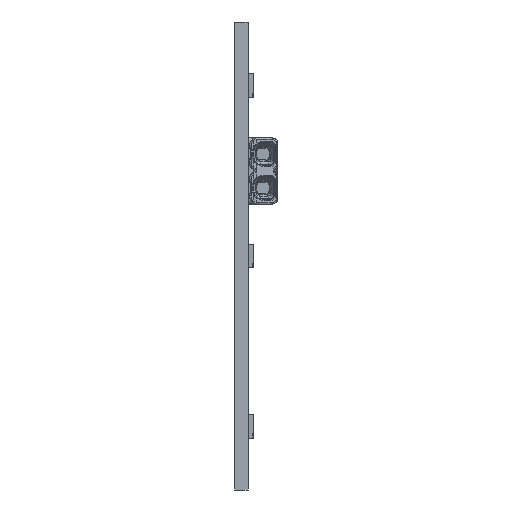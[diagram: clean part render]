
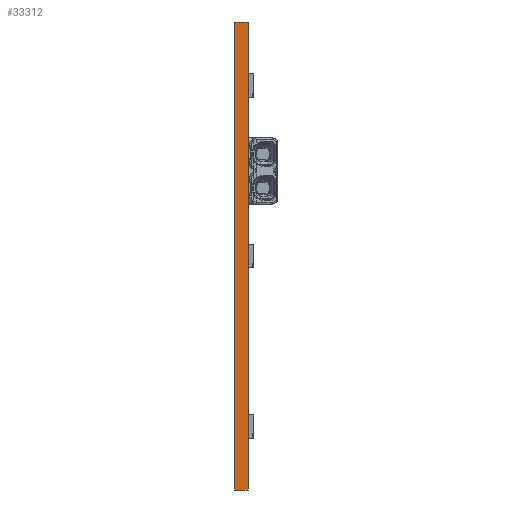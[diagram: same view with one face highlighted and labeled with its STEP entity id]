
A CAD part, left-side view. The second image highlights one B-rep face of the part: STEP entity #33312.
In plain terms, the highlighted planar face has unit normal (-1, 0, 0).
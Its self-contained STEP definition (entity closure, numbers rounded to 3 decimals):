
#1942=ORIENTED_EDGE('',*,*,#9085,.F.);
#1943=ORIENTED_EDGE('',*,*,#9134,.F.);
#1944=ORIENTED_EDGE('',*,*,#9007,.T.);
#1945=ORIENTED_EDGE('',*,*,#9135,.T.);
#9007=EDGE_CURVE('',#12604,#12602,#14897,.T.);
#9085=EDGE_CURVE('',#12681,#12678,#14943,.T.);
#9134=EDGE_CURVE('',#12604,#12681,#14968,.T.);
#9135=EDGE_CURVE('',#12602,#12678,#14969,.T.);
#12602=VERTEX_POINT('',#42554);
#12604=VERTEX_POINT('',#42557);
#12678=VERTEX_POINT('',#42707);
#12681=VERTEX_POINT('',#42712);
#14897=LINE('',#42556,#17383);
#14943=LINE('',#42713,#17429);
#14968=LINE('',#42811,#17454);
#14969=LINE('',#42812,#17455);
#17383=VECTOR('',#36560,1000.);
#17429=VECTOR('',#36672,1000.);
#17454=VECTOR('',#36747,1000.);
#17455=VECTOR('',#36748,1000.);
#19759=EDGE_LOOP('',(#1942,#1943,#1944,#1945));
#21263=FACE_BOUND('',#19759,.T.);
#22714=PLANE('',#34769);
#33312=ADVANCED_FACE('',(#21263),#22714,.T.);
#34769=AXIS2_PLACEMENT_3D('',#42810,#36745,#36746);
#36560=DIRECTION('',(0.,0.,1.));
#36672=DIRECTION('',(0.,0.,1.));
#36745=DIRECTION('',(-1.,0.,0.));
#36746=DIRECTION('',(0.,0.,1.));
#36747=DIRECTION('',(0.,1.,0.));
#36748=DIRECTION('',(0.,1.,0.));
#42554=CARTESIAN_POINT('',(-140.,-1.6,27.5));
#42556=CARTESIAN_POINT('',(-140.,-1.6,-27.5));
#42557=CARTESIAN_POINT('',(-140.,-1.6,-27.5));
#42707=CARTESIAN_POINT('',(-140.,0.,27.5));
#42712=CARTESIAN_POINT('',(-140.,0.,-27.5));
#42713=CARTESIAN_POINT('',(-140.,0.,-27.5));
#42810=CARTESIAN_POINT('',(-140.,-1.6,-27.5));
#42811=CARTESIAN_POINT('',(-140.,-1.6,-27.5));
#42812=CARTESIAN_POINT('',(-140.,-1.6,27.5));
